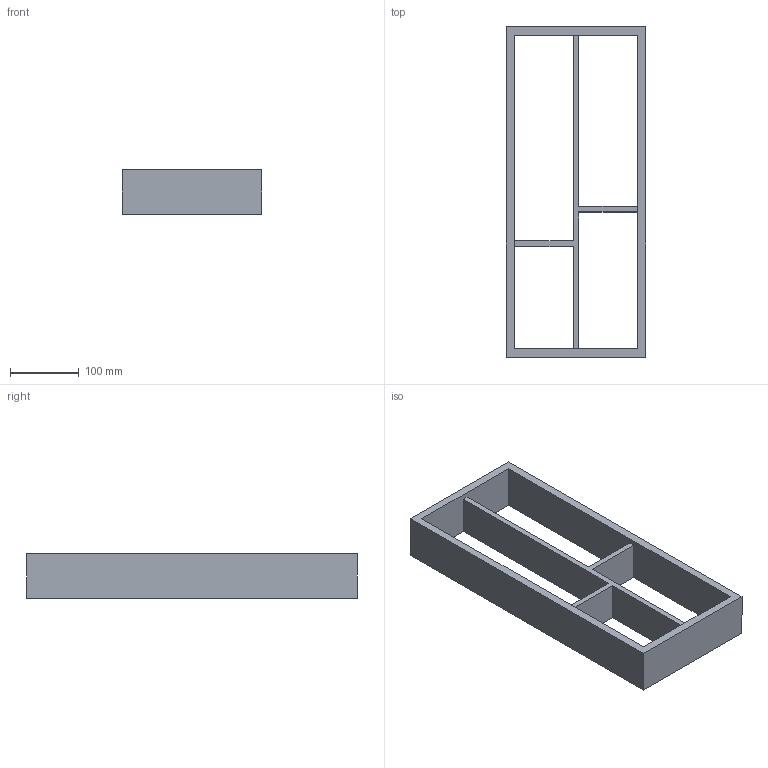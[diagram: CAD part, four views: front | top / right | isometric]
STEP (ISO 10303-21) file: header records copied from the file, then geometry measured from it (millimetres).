
FILE_DESCRIPTION (( 'STEP AP214' ), '1' );
FILE_NAME ('Vario Multi NL500_B300_19 mm_Alu.step', '2010-10-07T06:24:26', ( 'grass' ), ( '' ), 'SwSTEP 2.0', 'SolidWorks 2010', '' );
FILE_SCHEMA (( 'AUTOMOTIVE_DESIGN' ));
Length unit declared in the file: millimetre
Products named in the file (1): Vario Multi NL500_B300_19 mm_Alu
Bounding box: 202 x 479 x 65 mm (x, y, z)
Volume: 1309920 mm3; surface area: 280870 mm2
Topology: 1 solids, 1 shells, 19 faces, 60 edges, 40 vertices
Faces by surface type: plane 19
Entity records: 704 total; most frequent: ORIENTED_EDGE 120, CARTESIAN_POINT 120, DIRECTION 100, EDGE_CURVE 60, LINE 60, VECTOR 60, VERTEX_POINT 40, EDGE_LOOP 24
